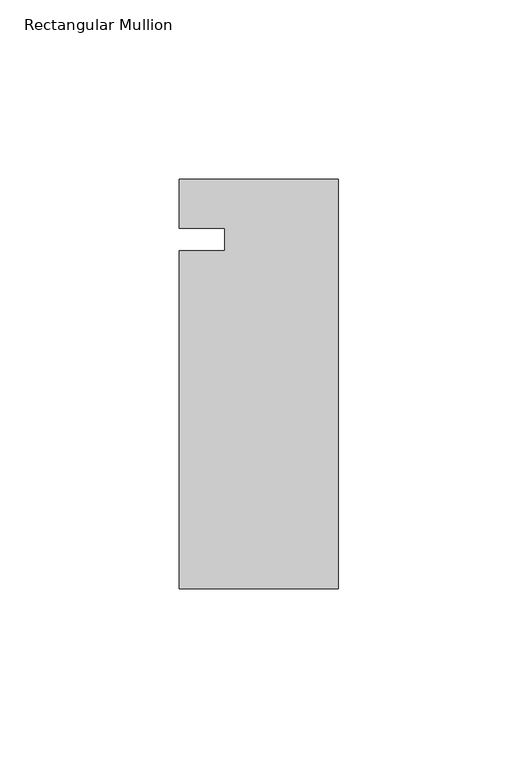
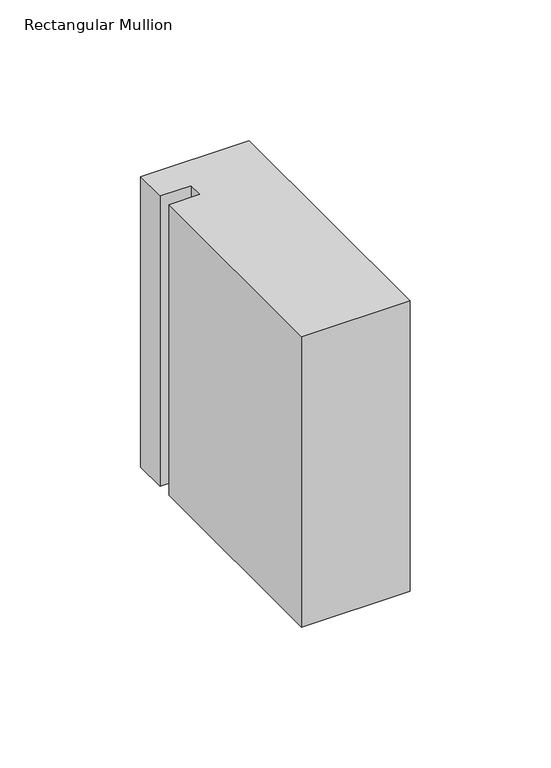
"""IFC4 building model written with IfcOpenShell, lengths in millimetres: member geometry, Rectangular Mullion : Kawneer-TRIFAB_VG_450_BACK_SB_Jamb R."""

from ifc_helpers import new_model, si_unit, frame, origin, place, context, project, spatial, polyline, outline, extrude, source, transform, mapped, element, save


def rectangular_mullion_b99a3797(model_context):
    return source(origin(), model_context, "Body", "SweptSolid", [
        extrude(outline(polyline([(-44.45, 16.8081154), (0.0, 16.8081154), (0.0, -97.4918846), (-44.45, -97.4918846), (-44.45, -3.175), (-31.7482296, -3.175), (-31.7482296, 3.175), (-44.45, 3.175), (-44.45, 16.8081154)])), frame((0.0, 0.0, -125.8405973), z_axis=(0.0, 0.0, 1.0), x_axis=(1.0, 0.0, 0.0)), (0.0, 0.0, 1.0), 125.8405973),
    ])


if __name__ == "__main__":
    model = new_model("IFC4")
    model_context = context("Model", 3, world=origin())
    ifc_project = project(units=[si_unit("LENGTHUNIT", "METRE", prefix="MILLI")], contexts=[model_context])
    site = spatial("IfcSite", under=ifc_project)
    building = spatial("IfcBuilding", under=site)
    placement = place(None, origin())
    rectangular_mullion_shape = rectangular_mullion_b99a3797(model_context)
    element("IfcMember", 1, ObjectType="Rectangular Mullion : Kawneer-TRIFAB_VG_450_BACK_SB_Jamb R", at=placement, inside=building, context=model_context, shape_type="MappedRepresentation", body=[
        mapped(rectangular_mullion_shape, transform((0.0, 0.0, 0.0), x_axis=(1.0, 0.0, 0.0), y_axis=(0.0, 1.0, 0.0), z_axis=(0.0, 0.0, 1.0))),
    ])
    save(model, "model.ifc")
